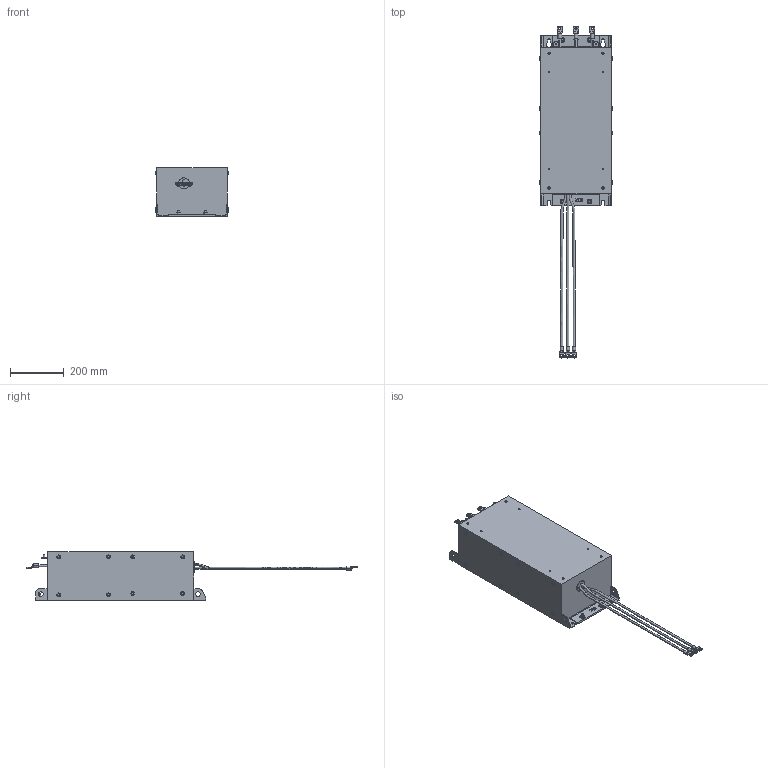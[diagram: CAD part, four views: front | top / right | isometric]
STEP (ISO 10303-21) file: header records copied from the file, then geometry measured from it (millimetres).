
FILE_DESCRIPTION (( 'STEP AP214' ), '1' );
FILE_NAME ('00E6X05-0022.STEP', '2023-07-11T12:42:17', ( '' ), ( '' ), 'SwSTEP 2.0', 'SolidWorks 2022', '' );
FILE_SCHEMA (( 'AUTOMOTIVE_DESIGN' ));
Length unit declared in the file: millimetre
Products named in the file (1): 00E6X05-0022
Bounding box: 269.4 x 1231.6 x 180 mm (x, y, z)
Volume: 25873493.5 mm3; surface area: 694435 mm2
Topology: 1 solids, 1 shells, 496 faces, 1221 edges, 787 vertices
Faces by surface type: plane 204, cylinder 184, bspline 76, torus 32
Entity records: 22862 total; most frequent: CARTESIAN_POINT 11264, ORIENTED_EDGE 2442, DIRECTION 2171, EDGE_CURVE 1221, AXIS2_PLACEMENT_3D 820, VERTEX_POINT 787, EDGE_LOOP 580, VECTOR 531
